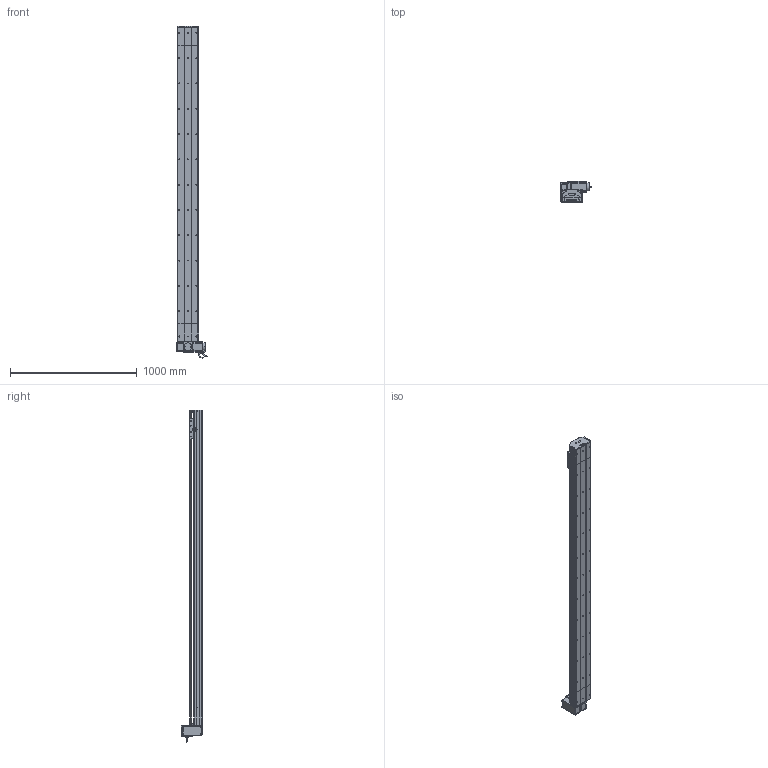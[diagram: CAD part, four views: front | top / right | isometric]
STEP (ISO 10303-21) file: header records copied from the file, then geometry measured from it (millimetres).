
FILE_DESCRIPTION (( 'STEP AP214' ), '1' );
FILE_NAME ('D17 TBH RT S2200.STEP', '2010-06-30T08:33:05', ( 'Christophe Gaillard' ), ( 'SGA' ), 'SwSTEP 2.0', 'SolidWorks 2010', '' );
FILE_SCHEMA (( 'AUTOMOTIVE_DESIGN' ));
Length unit declared in the file: millimetre
Products named in the file (40): D17 TBH RT S2200; vis M5 L5_Default; tete d''axe poulie D17B; cache arbre D17_Default; corps 90BLDC125A-640; Rail D17B; cache D17_Default; codeur 90BLDC125-640; Conecteur2_Default; Conecteur_Default; vis M5 L70_Default; chariot D17S_Default; vis M5 L12_Default; plaque de  bout tail D17B_Default; Tail D17B_Default; Chariot D17; avant 90BLDC125A-640; Vis M5 L16-2_Default; vis M5 L16_Default; Arbre+rail head D17B; couroie head D17_Default; Couroie+ rail D17 Course 2200 ; plaque de  bout head D17B RT_Default; couvercle D17B_Default; Plaque racord D17_Default; course 2200 D17B_Default; guide D17; corpl tail D17B_Default; poulie tail_Default; Couroie tail D17B_Default; Head RT D17B_Default; couvercle D17B course L2200_Default; corpl head D17 _Default; poulie head_Default; corp D17B 2200_Default; vis M5 L25_Default; Renvoi RT_Default; Moteur motionking 90BLDC125A-640; vis M5 L8 90°_Default; couvercle D17B head_Default
Assembly tree (70 placements, depth 4):
  D17 TBH RT S2200
    Head RT D17B_Default
      vis M5 L70_Default  x4
      vis M5 L16_Default  x2
      plaque de  bout head D17B RT_Default
      vis M5 L25_Default  x2
      vis M5 L12_Default  x8
      Vis M5 L16-2_Default  x4
      Moteur motionking 90BLDC125A-640
        corps 90BLDC125A-640
        codeur 90BLDC125-640
        avant 90BLDC125A-640
        Conecteur2_Default
        Conecteur_Default
      vis M5 L5_Default  x4
      poulie head_Default
      Arbre+rail head D17B
      cache arbre D17_Default
      cache D17_Default  x2
      couvercle D17B head_Default
      Renvoi RT_Default
      couroie head D17_Default
      Plaque racord D17_Default
      corpl head D17 _Default
    Tail D17B_Default
      Couroie tail D17B_Default
      vis M5 L12_Default  x4
      plaque de  bout tail D17B_Default
      vis M5 L8 90°_Default  x2
      Rail D17B
      couvercle D17B_Default
      tete d''axe poulie D17B
      corpl tail D17B_Default
      poulie tail_Default
      vis M5 L25_Default  x2
    chariot D17S_Default
      vis M5 L12_Default  x4
      guide D17  x2
      Chariot D17
    course 2200 D17B_Default
      corp D17B 2200_Default
      Couroie+ rail D17 Course 2200 
      couvercle D17B course L2200_Default
Bounding box: 245.2 x 166.15 x 2623.95 mm (x, y, z)
Volume: 15355739.8 mm3; surface area: 4427255.8 mm2
Topology: 94 solids, 94 shells, 2725 faces, 6909 edges, 4446 vertices
Faces by surface type: plane 1607, cylinder 805, bspline 136, cone 88, torus 85, sphere 4
Entity records: 85776 total; most frequent: CARTESIAN_POINT 25265, ORIENTED_EDGE 10590, DIRECTION 10044, EDGE_CURVE 5295, LINE 3486, VECTOR 3486, VERTEX_POINT 3470, AXIS2_PLACEMENT_3D 3279
